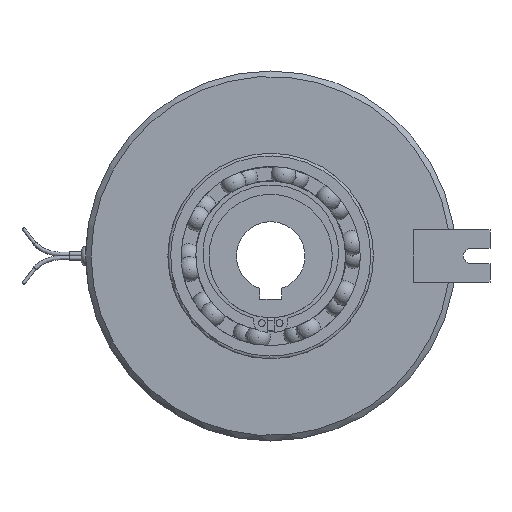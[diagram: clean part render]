
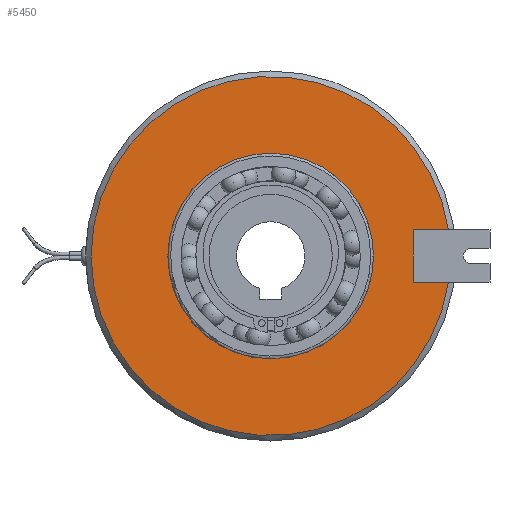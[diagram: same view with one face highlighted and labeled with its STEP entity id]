
A CAD part, left-side view. The second image highlights one B-rep face of the part: STEP entity #5450.
In plain terms, the highlighted planar face has unit normal (-1, 0, 0).
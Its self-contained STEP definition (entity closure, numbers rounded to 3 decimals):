
#363=FACE_BOUND('',#1072,.T.);
#447=PLANE('',#6197);
#708=FACE_OUTER_BOUND('',#1071,.T.);
#1071=EDGE_LOOP('',(#4853,#4854,#4855,#4856,#4857));
#1072=EDGE_LOOP('',(#4858,#4859));
#1241=LINE('',#11793,#1415);
#1242=LINE('',#11795,#1416);
#1243=LINE('',#11796,#1417);
#1415=VECTOR('',#7783,10.);
#1416=VECTOR('',#7784,10.);
#1417=VECTOR('',#7785,10.);
#1657=CIRCLE('',#5814,37.5);
#1658=CIRCLE('',#5815,37.5);
#1689=CIRCLE('',#5857,65.5);
#1691=CIRCLE('',#5859,65.5);
#2149=VERTEX_POINT('',#8701);
#2150=VERTEX_POINT('',#8703);
#2186=VERTEX_POINT('',#8828);
#2187=VERTEX_POINT('',#8830);
#2188=VERTEX_POINT('',#8832);
#2481=VERTEX_POINT('',#11792);
#2482=VERTEX_POINT('',#11794);
#2819=EDGE_CURVE('',#2150,#2149,#1657,.T.);
#2820=EDGE_CURVE('',#2149,#2150,#1658,.T.);
#2863=EDGE_CURVE('',#2186,#2187,#1689,.T.);
#2865=EDGE_CURVE('',#2188,#2186,#1691,.T.);
#3279=EDGE_CURVE('',#2188,#2481,#1241,.T.);
#3280=EDGE_CURVE('',#2481,#2482,#1242,.T.);
#3281=EDGE_CURVE('',#2482,#2187,#1243,.T.);
#4853=ORIENTED_EDGE('',*,*,#3279,.T.);
#4854=ORIENTED_EDGE('',*,*,#3280,.T.);
#4855=ORIENTED_EDGE('',*,*,#3281,.T.);
#4856=ORIENTED_EDGE('',*,*,#2863,.F.);
#4857=ORIENTED_EDGE('',*,*,#2865,.F.);
#4858=ORIENTED_EDGE('',*,*,#2819,.T.);
#4859=ORIENTED_EDGE('',*,*,#2820,.T.);
#5450=ADVANCED_FACE('',(#708,#363),#447,.T.);
#5814=AXIS2_PLACEMENT_3D('',#8704,#6974,#6975);
#5815=AXIS2_PLACEMENT_3D('',#8705,#6976,#6977);
#5857=AXIS2_PLACEMENT_3D('',#8831,#7070,#7071);
#5859=AXIS2_PLACEMENT_3D('',#8834,#7074,#7075);
#6197=AXIS2_PLACEMENT_3D('',#11791,#7781,#7782);
#6974=DIRECTION('center_axis',(1.,0.,0.));
#6975=DIRECTION('ref_axis',(0.,0.,-1.));
#6976=DIRECTION('center_axis',(1.,0.,0.));
#6977=DIRECTION('ref_axis',(0.,0.,-1.));
#7070=DIRECTION('center_axis',(1.,0.,0.));
#7071=DIRECTION('ref_axis',(0.,-1.,0.));
#7074=DIRECTION('center_axis',(1.,0.,0.));
#7075=DIRECTION('ref_axis',(0.,-1.,0.));
#7781=DIRECTION('center_axis',(-1.,0.,0.));
#7782=DIRECTION('ref_axis',(0.,0.,
1.));
#7783=DIRECTION('',(0.,1.,0.));
#7784=DIRECTION('',(0.,0.,1.));
#7785=DIRECTION('',(0.,-1.,0.));
#8701=CARTESIAN_POINT('',(-19.5,-37.5,0.));
#8703=CARTESIAN_POINT('',(-19.5,37.5,0.));
#8704=CARTESIAN_POINT('Origin',(-19.5,0.,0.));
#8705=CARTESIAN_POINT('Origin',(-19.5,0.,0.));
#8828=CARTESIAN_POINT('',(-19.5,65.5,0.));
#8830=CARTESIAN_POINT('',(-19.5,-64.807,9.5));
#8831=CARTESIAN_POINT('Origin',(-19.5,0.,0.));
#8832=CARTESIAN_POINT('',(-19.5,-64.807,-9.5));
#8834=CARTESIAN_POINT('Origin',(-19.5,0.,0.));
#11791=CARTESIAN_POINT('Origin',(-19.5,67.5,0.));
#11792=CARTESIAN_POINT('',(-19.5,-52.,-9.5));
#11793=CARTESIAN_POINT('',(-19.5,-6.25,-9.5));
#11794=CARTESIAN_POINT('',(-19.5,-52.,9.5));
#11795=CARTESIAN_POINT('',(-19.5,-52.,-4.75));
#11796=CARTESIAN_POINT('',(-19.5,7.75,9.5));
